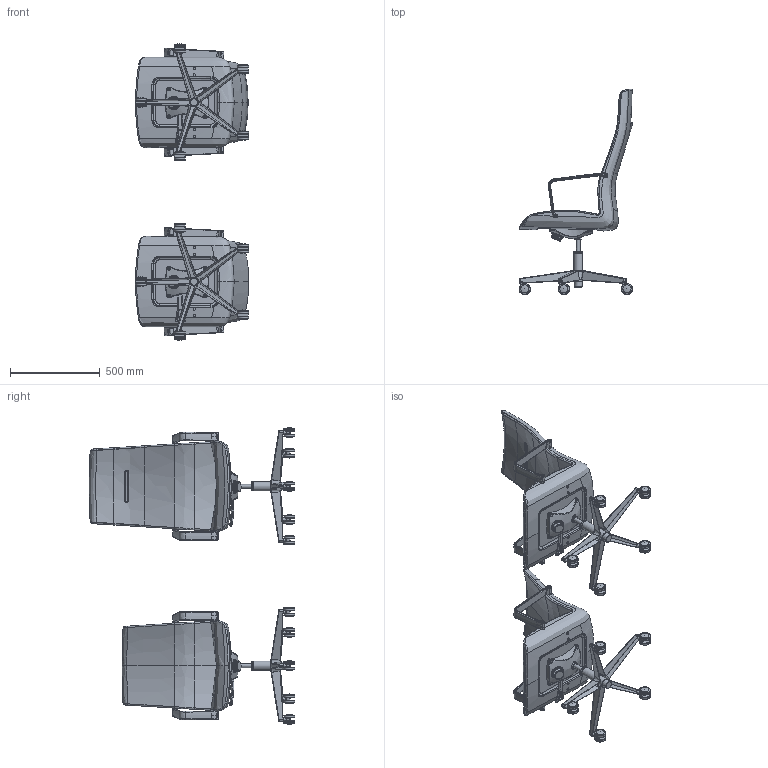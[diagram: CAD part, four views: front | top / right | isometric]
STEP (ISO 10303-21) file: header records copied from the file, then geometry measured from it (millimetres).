
FILE_DESCRIPTION(/* description */ (''),/* implementation_level */ '2;1');
FILE_NAME(/* name */ 'P613 DORADO_RANDER DATAstp.stp',/* time_stamp */ '2020-12-18T13:56:50+03:00',/* author */ (''),/* organization */ (''),/* preprocessor_version */ 'ST-DEVELOPER v16.7',/* originating_system */ 'SIEMENS PLM Software NX 12.0',/* authorisation */ '');
FILE_SCHEMA (('AUTOMOTIVE_DESIGN { 1 0 10303 214 3 1 1 1 }'));
Products named in the file (1): sule3BE84F55f0ot
Bounding box: 633.09 x 1145.43 x 1653.17 mm (x, y, z)
Volume: 73968397.9 mm3; surface area: 3862319.3 mm2
Topology: 23 solids, 23 shells, 1779 faces, 4360 edges, 2648 vertices
Faces by surface type: bspline 845, cylinder 456, plane 216, cone 106, sphere 80, torus 74, extrusion 2
Full cylindrical faces by diameter (mm): 8 x8, 9 x8, 13 x8, 15 x10, 16 x8, 22 x2, 50 x4, 62 x20
Entity records: 96609 total; most frequent: CARTESIAN_POINT 63001, ORIENTED_EDGE 8092, DIRECTION 4938, EDGE_CURVE 4046, VERTEX_POINT 2530, AXIS2_PLACEMENT_3D 2222, EDGE_LOOP 2036, B_SPLINE_CURVE_WITH_KNOTS 2032
